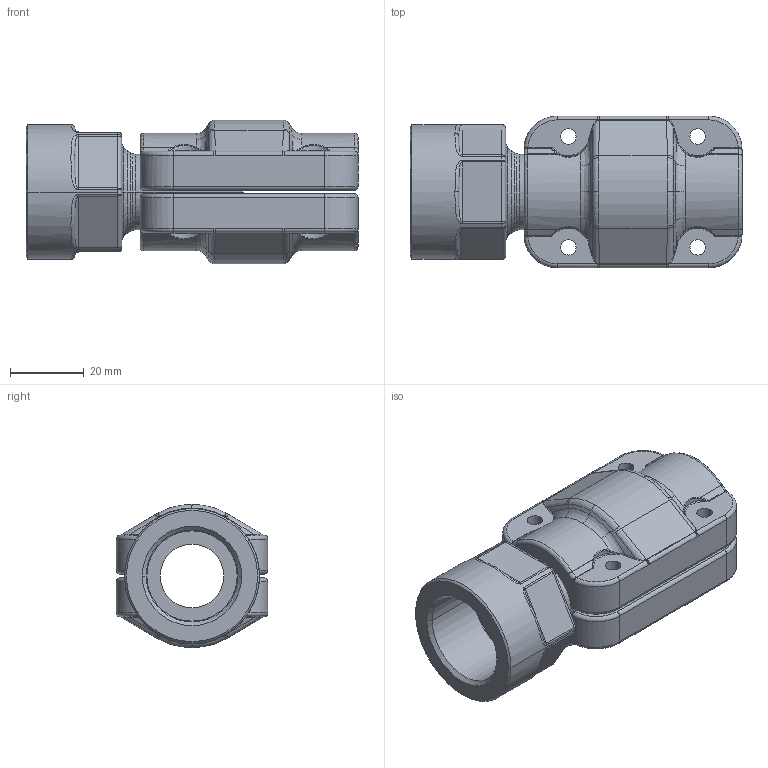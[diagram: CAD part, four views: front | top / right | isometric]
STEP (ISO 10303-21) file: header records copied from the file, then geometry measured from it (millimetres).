
FILE_DESCRIPTION((''),'2;1');
FILE_NAME('AU15111999_ASM_4_ASM','2017-05-16T',('Administrator'),(''),'PRO/ENGINEER BY PARAMETRIC TECHNOLOGY CORPORATION, 2009360','PRO/ENGINEER BY PARAMETRIC TECHNOLOGY CORPORATION, 2009360','');
FILE_SCHEMA(('AUTOMOTIVE_DESIGN_CC2 { 1 2 10303 214 -1 1 5 2 }'));
Length unit declared in the file: millimetre
Products named in the file (5): AU15111900_1; 201510020000_38_1; 201510020001_10_1; 2015100200_ASM_1_ASM; AU15111999_ASM_4_ASM
Assembly tree (4 placements, depth 3):
  AU15111999_ASM_4_ASM
    AU15111900_1
    2015100200_ASM_1_ASM
      201510020000_38_1
      201510020001_10_1
Bounding box: 89.86 x 41 x 38.8 mm (x, y, z)
Volume: 59733.5 mm3; surface area: 27887.2 mm2
Topology: 3 solids, 9 shells, 456 faces, 1085 edges, 630 vertices
Faces by surface type: bspline 146, cylinder 142, torus 82, plane 48, sphere 20, cone 18
Entity records: 22756 total; most frequent: CARTESIAN_POINT 10157, ORIENTED_EDGE 2132, DIRECTION 1722, EDGE_CURVE 1066, AXIS2_PLACEMENT_3D 744, VERTEX_POINT 630, PRESENTATION_STYLE_ASSIGNMENT 561, STYLED_ITEM 561
